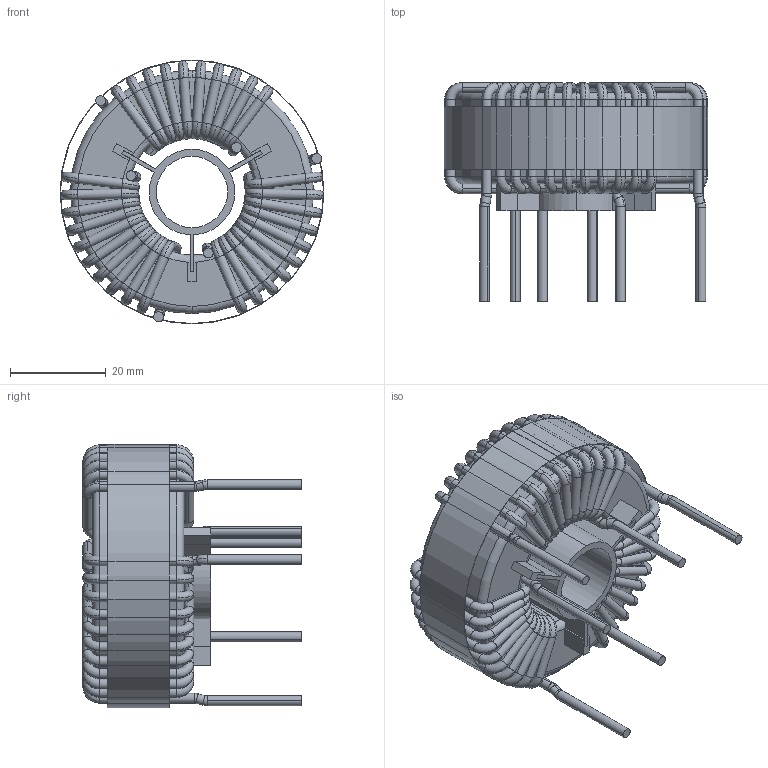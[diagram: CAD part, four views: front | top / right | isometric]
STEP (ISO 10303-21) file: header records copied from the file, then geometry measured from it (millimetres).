
FILE_DESCRIPTION (( 'STEP AP203' ), '1' );
FILE_NAME ('TFR-761U-26A-SW.STEP', '2020-11-26T14:13:49', ( 'Windows User' ), ( '' ), 'SwSTEP 2.0', 'SolidWorks 2015', '' );
FILE_SCHEMA (( 'CONFIG_CONTROL_DESIGN' ));
Length unit declared in the file: inch
Products named in the file (4): TFR-761U-26A-CORE-SW; TFR-761U-26A-SW; TFR-761U-26A-COIL-SW; TFR-761U-26A-SPACER-SW
Assembly tree (4 placements, depth 2):
  TFR-761U-26A-SW
    TFR-761U-26A-CORE-SW
    TFR-761U-26A-COIL-SW
    TFR-761U-26A-SPACER-SW  x2
Bounding box: 55.01 x 45.53 x 55.01 mm (x, y, z)
Volume: 39998.7 mm3; surface area: 32428.4 mm2
Topology: 13 solids, 13 shells, 675 faces, 2101 edges, 1392 vertices
Faces by surface type: cylinder 305, torus 284, plane 86
Entity records: 26731 total; most frequent: CARTESIAN_POINT 7101, DIRECTION 4579, ORIENTED_EDGE 4076, AXIS2_PLACEMENT_3D 2110, EDGE_CURVE 2038, CIRCLE 1451, VERTEX_POINT 1350, EDGE_LOOP 658
